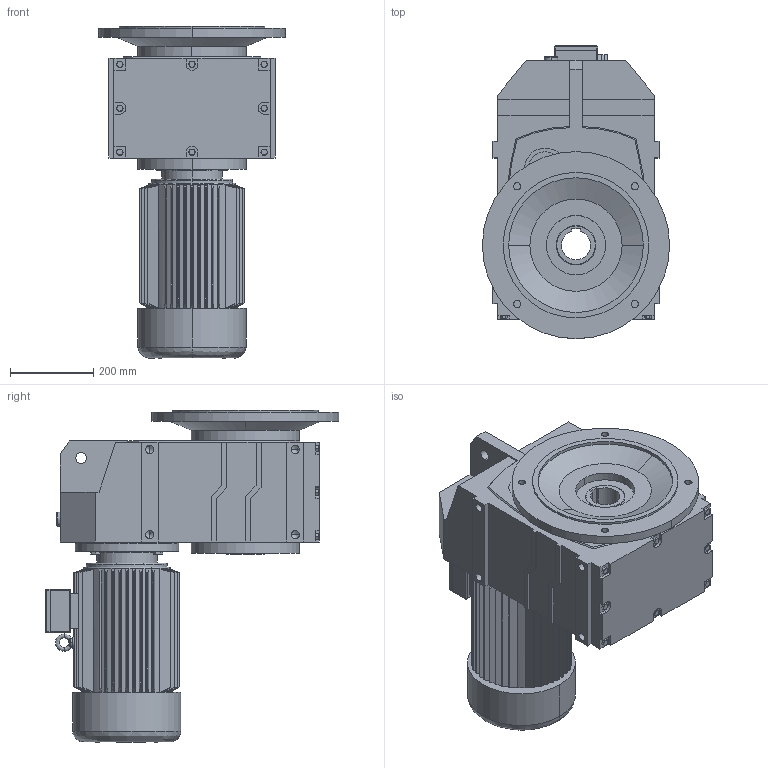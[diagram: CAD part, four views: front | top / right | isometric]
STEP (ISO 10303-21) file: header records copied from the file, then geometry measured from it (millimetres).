
FILE_DESCRIPTION (( 'STEP AP214' ), '1' );
FILE_NAME ('MFL97.step', '2020-06-27T08:12:50', ( '' ), ( '' ), 'SwSTEP 2.0', 'SolidWorks 2016', '' );
FILE_SCHEMA (( 'AUTOMOTIVE_DESIGN' ));
Length unit declared in the file: millimetre
Products named in the file (1): MFL97
Bounding box: 450 x 706.5 x 798.5 mm (x, y, z)
Volume: 77670183.2 mm3; surface area: 2407631.9 mm2
Topology: 3 solids, 3 shells, 1011 faces, 2576 edges, 1624 vertices
Faces by surface type: plane 531, cone 204, cylinder 167, bspline 109
Entity records: 44521 total; most frequent: CARTESIAN_POINT 10140, ORIENTED_EDGE 5104, DIRECTION 4342, EDGE_CURVE 2552, VERTEX_POINT 1624, AXIS2_PLACEMENT_3D 1494, VECTOR 1354, LINE 1354
